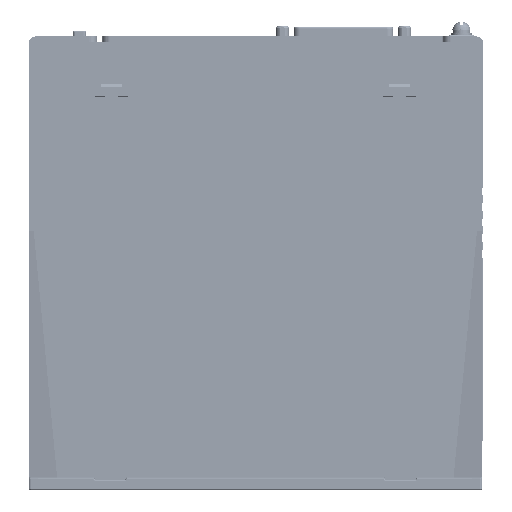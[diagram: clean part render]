
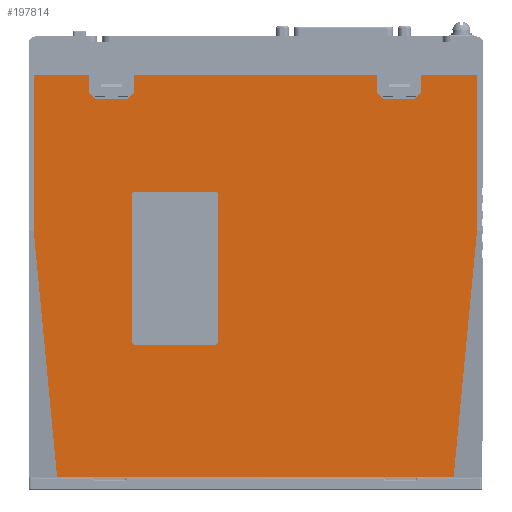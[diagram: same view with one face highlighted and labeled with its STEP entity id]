
A CAD part, left-side view. The second image highlights one B-rep face of the part: STEP entity #197814.
In plain terms, the highlighted planar face has unit normal (-1, 0, 0).
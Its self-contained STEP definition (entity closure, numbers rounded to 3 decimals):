
#54065=DIRECTION('',(0.,-1.,0.));
#54066=VECTOR('',#54065,152.95);
#54067=CARTESIAN_POINT('',(-40.,163.975,5.));
#54068=LINE('',#54067,#54066);
#56824=DIRECTION('',(0.,1.,0.));
#56825=VECTOR('',#56824,21.5);
#56826=CARTESIAN_POINT('',(-40.,2.,160.));
#56827=LINE('',#56826,#56825);
#56828=DIRECTION('',(0.,1.,0.));
#56829=VECTOR('',#56828,94.);
#56830=CARTESIAN_POINT('',(-40.,40.5,160.));
#56831=LINE('',#56830,#56829);
#56836=DIRECTION('',(0.,1.,0.));
#56837=VECTOR('',#56836,21.5);
#56838=CARTESIAN_POINT('',(-40.,151.5,160.));
#56839=LINE('',#56838,#56837);
#57108=DIRECTION('',(0.,-0.707,-0.707));
#57109=VECTOR('',#57108,3.243);
#57110=CARTESIAN_POINT('',(-40.,151.5,153.293));
#57111=LINE('',#57110,#57109);
#57112=DIRECTION('',(0.,-0.707,0.707));
#57113=VECTOR('',#57112,3.243);
#57114=CARTESIAN_POINT('',(-40.,136.793,151.));
#57115=LINE('',#57114,#57113);
#57116=DIRECTION('',(0.,-0.707,-0.707));
#57117=VECTOR('',#57116,3.243);
#57118=CARTESIAN_POINT('',(-40.,40.5,153.293));
#57119=LINE('',#57118,#57117);
#57120=DIRECTION('',(0.,-0.707,0.707));
#57121=VECTOR('',#57120,3.243);
#57122=CARTESIAN_POINT('',(-40.,25.793,151.));
#57123=LINE('',#57122,#57121);
#57124=DIRECTION('',(0.,0.095,-0.996));
#57125=VECTOR('',#57124,95.428);
#57126=CARTESIAN_POINT('',(-40.,2.,100.));
#57127=LINE('',#57126,#57125);
#57128=DIRECTION('',(0.,0.095,0.996));
#57129=VECTOR('',#57128,95.428);
#57130=CARTESIAN_POINT('',(-40.,163.975,5.));
#57131=LINE('',#57130,#57129);
#57132=CARTESIAN_POINT('',(-40.,134.,57.));
#57133=DIRECTION('',(-1.,0.,0.));
#57134=DIRECTION('',(0.,1.,0.));
#57135=AXIS2_PLACEMENT_3D('',#57132,#57133,#57134);
#57137=CARTESIAN_POINT('',(-40.,103.,57.));
#57138=DIRECTION('',(-1.,0.,0.));
#57139=DIRECTION('',(0.,0.,-1.));
#57140=AXIS2_PLACEMENT_3D('',#57137,#57138,#57139);
#57142=CARTESIAN_POINT('',(-40.,103.,114.));
#57143=DIRECTION('',(-1.,0.,0.));
#57144=DIRECTION('',(0.,-1.,0.));
#57145=AXIS2_PLACEMENT_3D('',#57142,#57143,#57144);
#57147=CARTESIAN_POINT('',(-40.,134.,114.));
#57148=DIRECTION('',(-1.,0.,0.));
#57149=DIRECTION('',(0.,0.,1.));
#57150=AXIS2_PLACEMENT_3D('',#57147,#57148,#57149);
#57152=DIRECTION('',(0.,0.,1.));
#57153=VECTOR('',#57152,6.707);
#57154=CARTESIAN_POINT('',(-40.,151.5,153.293));
#57155=LINE('',#57154,#57153);
#57184=DIRECTION('',(0.,0.,-1.));
#57185=VECTOR('',#57184,6.707);
#57186=CARTESIAN_POINT('',(-40.,134.5,160.));
#57187=LINE('',#57186,#57185);
#57196=DIRECTION('',(0.,1.,0.));
#57197=VECTOR('',#57196,12.414);
#57198=CARTESIAN_POINT('',(-40.,136.793,151.));
#57199=LINE('',#57198,#57197);
#57256=DIRECTION('',(0.,0.,1.));
#57257=VECTOR('',#57256,6.707);
#57258=CARTESIAN_POINT('',(-40.,40.5,153.293));
#57259=LINE('',#57258,#57257);
#57292=DIRECTION('',(0.,0.,-1.));
#57293=VECTOR('',#57292,6.707);
#57294=CARTESIAN_POINT('',(-40.,23.5,160.));
#57295=LINE('',#57294,#57293);
#57304=DIRECTION('',(0.,1.,0.));
#57305=VECTOR('',#57304,12.414);
#57306=CARTESIAN_POINT('',(-40.,25.793,151.));
#57307=LINE('',#57306,#57305);
#57372=DIRECTION('',(0.,0.,1.));
#57373=VECTOR('',#57372,60.);
#57374=CARTESIAN_POINT('',(-40.,2.,100.));
#57375=LINE('',#57374,#57373);
#57416=DIRECTION('',(0.,0.,-1.));
#57417=VECTOR('',#57416,60.);
#57418=CARTESIAN_POINT('',(-40.,173.,160.));
#57419=LINE('',#57418,#57417);
#57424=DIRECTION('',(0.,0.,1.));
#57425=VECTOR('',#57424,57.);
#57426=CARTESIAN_POINT('',(-40.,135.,57.));
#57427=LINE('',#57426,#57425);
#57460=DIRECTION('',(0.,-1.,0.));
#57461=VECTOR('',#57460,31.);
#57462=CARTESIAN_POINT('',(-40.,134.,115.));
#57463=LINE('',#57462,#57461);
#57476=DIRECTION('',(0.,0.,-1.));
#57477=VECTOR('',#57476,57.);
#57478=CARTESIAN_POINT('',(-40.,102.,114.));
#57479=LINE('',#57478,#57477);
#57496=DIRECTION('',(0.,1.,0.));
#57497=VECTOR('',#57496,31.);
#57498=CARTESIAN_POINT('',(-40.,103.,56.));
#57499=LINE('',#57498,#57497);
#102145=CARTESIAN_POINT('',(-40.,151.5,153.293));
#102146=CARTESIAN_POINT('',(-40.,149.207,151.));
#102147=VERTEX_POINT('',#102145);
#102148=VERTEX_POINT('',#102146);
#102149=CARTESIAN_POINT('',(-40.,136.793,151.));
#102150=CARTESIAN_POINT('',(-40.,134.5,153.293));
#102151=VERTEX_POINT('',#102149);
#102152=VERTEX_POINT('',#102150);
#102153=CARTESIAN_POINT('',(-40.,134.5,160.));
#102154=VERTEX_POINT('',#102153);
#102155=CARTESIAN_POINT('',(-40.,40.5,160.));
#102156=VERTEX_POINT('',#102155);
#102157=CARTESIAN_POINT('',(-40.,40.5,153.293));
#102158=CARTESIAN_POINT('',(-40.,38.207,151.));
#102159=VERTEX_POINT('',#102157);
#102160=VERTEX_POINT('',#102158);
#102161=CARTESIAN_POINT('',(-40.,25.793,151.));
#102162=CARTESIAN_POINT('',(-40.,23.5,153.293));
#102163=VERTEX_POINT('',#102161);
#102164=VERTEX_POINT('',#102162);
#102165=CARTESIAN_POINT('',(-40.,23.5,160.));
#102166=VERTEX_POINT('',#102165);
#102167=CARTESIAN_POINT('',(-40.,2.,160.));
#102168=VERTEX_POINT('',#102167);
#102169=CARTESIAN_POINT('',(-40.,2.,100.));
#102170=VERTEX_POINT('',#102169);
#102171=CARTESIAN_POINT('',(-40.,11.025,5.));
#102172=VERTEX_POINT('',#102171);
#102173=CARTESIAN_POINT('',(-40.,163.975,5.));
#102174=VERTEX_POINT('',#102173);
#102175=CARTESIAN_POINT('',(-40.,173.,100.));
#102176=VERTEX_POINT('',#102175);
#102177=CARTESIAN_POINT('',(-40.,151.5,160.));
#102178=CARTESIAN_POINT('',(-40.,173.,160.));
#102179=VERTEX_POINT('',#102177);
#102180=VERTEX_POINT('',#102178);
#102181=CARTESIAN_POINT('',(-40.,135.,57.));
#102182=CARTESIAN_POINT('',(-40.,134.,56.));
#102183=VERTEX_POINT('',#102181);
#102184=VERTEX_POINT('',#102182);
#102185=CARTESIAN_POINT('',(-40.,103.,56.));
#102186=CARTESIAN_POINT('',(-40.,102.,57.));
#102187=VERTEX_POINT('',#102185);
#102188=VERTEX_POINT('',#102186);
#102189=CARTESIAN_POINT('',(-40.,102.,114.));
#102190=CARTESIAN_POINT('',(-40.,103.,115.));
#102191=VERTEX_POINT('',#102189);
#102192=VERTEX_POINT('',#102190);
#102193=CARTESIAN_POINT('',(-40.,134.,115.));
#102194=CARTESIAN_POINT('',(-40.,135.,114.));
#102195=VERTEX_POINT('',#102193);
#102196=VERTEX_POINT('',#102194);
#197758=CARTESIAN_POINT('',(-40.,87.5,82.5));
#197759=DIRECTION('',(1.,0.,0.));
#197760=DIRECTION('',(0.,-1.,0.));
#197761=AXIS2_PLACEMENT_3D('',#197758,#197759,#197760);
#197762=PLANE('',#197761);
#197764=ORIENTED_EDGE('',*,*,#197763,.T.);
#197766=ORIENTED_EDGE('',*,*,#197765,.F.);
#197768=ORIENTED_EDGE('',*,*,#197767,.T.);
#197770=ORIENTED_EDGE('',*,*,#197769,.F.);
#197771=ORIENTED_EDGE('',*,*,#197293,.F.);
#197773=ORIENTED_EDGE('',*,*,#197772,.F.);
#197775=ORIENTED_EDGE('',*,*,#197774,.T.);
#197777=ORIENTED_EDGE('',*,*,#197776,.F.);
#197779=ORIENTED_EDGE('',*,*,#197778,.T.);
#197781=ORIENTED_EDGE('',*,*,#197780,.F.);
#197782=ORIENTED_EDGE('',*,*,#197285,.F.);
#197784=ORIENTED_EDGE('',*,*,#197783,.F.);
#197785=ORIENTED_EDGE('',*,*,#197750,.T.);
#197786=ORIENTED_EDGE('',*,*,#193458,.F.);
#197788=ORIENTED_EDGE('',*,*,#197787,.T.);
#197790=ORIENTED_EDGE('',*,*,#197789,.F.);
#197791=ORIENTED_EDGE('',*,*,#197301,.F.);
#197793=ORIENTED_EDGE('',*,*,#197792,.F.);
#197794=EDGE_LOOP('',(#197764,#197766,#197768,#197770,#197771,#197773,#197775,
#197777,#197779,#197781,#197782,#197784,#197785,#197786,#197788,#197790,#197791,
#197793));
#197795=FACE_OUTER_BOUND('',#197794,.F.);
#197797=ORIENTED_EDGE('',*,*,#197796,.F.);
#197799=ORIENTED_EDGE('',*,*,#197798,.T.);
#197801=ORIENTED_EDGE('',*,*,#197800,.F.);
#197803=ORIENTED_EDGE('',*,*,#197802,.T.);
#197805=ORIENTED_EDGE('',*,*,#197804,.F.);
#197807=ORIENTED_EDGE('',*,*,#197806,.T.);
#197809=ORIENTED_EDGE('',*,*,#197808,.F.);
#197811=ORIENTED_EDGE('',*,*,#197810,.T.);
#197812=EDGE_LOOP('',(#197797,#197799,#197801,#197803,#197805,#197807,#197809,
#197811));
#197813=FACE_BOUND('',#197812,.F.);
#197814=ADVANCED_FACE('',(#197795,#197813),#197762,.F.);
#57136=CIRCLE('',#57135,1.);
#57141=CIRCLE('',#57140,1.);
#57146=CIRCLE('',#57145,1.);
#57151=CIRCLE('',#57150,1.);
#193458=EDGE_CURVE('',#102174,#102172,#54068,.T.);
#197285=EDGE_CURVE('',#102168,#102166,#56827,.T.);
#197293=EDGE_CURVE('',#102156,#102154,#56831,.T.);
#197301=EDGE_CURVE('',#102179,#102180,#56839,.T.);
#197750=EDGE_CURVE('',#102170,#102172,#57127,.T.);
#197763=EDGE_CURVE('',#102147,#102148,#57111,.T.);
#197765=EDGE_CURVE('',#102151,#102148,#57199,.T.);
#197767=EDGE_CURVE('',#102151,#102152,#57115,.T.);
#197769=EDGE_CURVE('',#102154,#102152,#57187,.T.);
#197772=EDGE_CURVE('',#102159,#102156,#57259,.T.);
#197774=EDGE_CURVE('',#102159,#102160,#57119,.T.);
#197776=EDGE_CURVE('',#102163,#102160,#57307,.T.);
#197778=EDGE_CURVE('',#102163,#102164,#57123,.T.);
#197780=EDGE_CURVE('',#102166,#102164,#57295,.T.);
#197783=EDGE_CURVE('',#102170,#102168,#57375,.T.);
#197787=EDGE_CURVE('',#102174,#102176,#57131,.T.);
#197789=EDGE_CURVE('',#102180,#102176,#57419,.T.);
#197792=EDGE_CURVE('',#102147,#102179,#57155,.T.);
#197796=EDGE_CURVE('',#102183,#102196,#57427,.T.);
#197798=EDGE_CURVE('',#102183,#102184,#57136,.T.);
#197800=EDGE_CURVE('',#102187,#102184,#57499,.T.);
#197802=EDGE_CURVE('',#102187,#102188,#57141,.T.);
#197804=EDGE_CURVE('',#102191,#102188,#57479,.T.);
#197806=EDGE_CURVE('',#102191,#102192,#57146,.T.);
#197808=EDGE_CURVE('',#102195,#102192,#57463,.T.);
#197810=EDGE_CURVE('',#102195,#102196,#57151,.T.);
